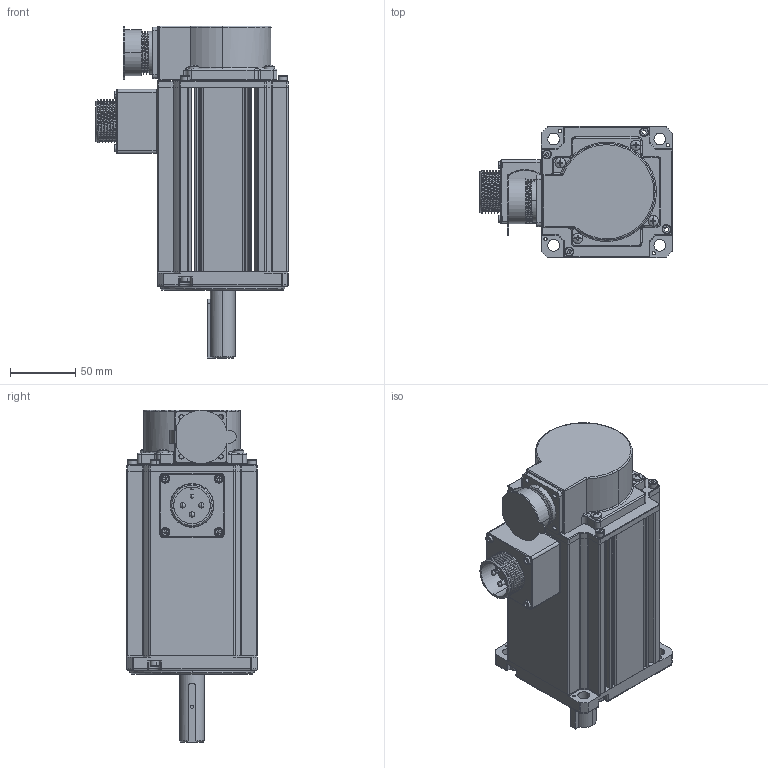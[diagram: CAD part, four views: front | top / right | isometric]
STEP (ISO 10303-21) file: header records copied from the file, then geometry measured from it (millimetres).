
FILE_DESCRIPTION (( 'STEP AP203' ), '1' );
FILE_NAME ('WF100ST-M08030GYA5-B1軞蚾-YD28粣19.STEP', '2024-01-30T08:51:43', ( 'lvbing' ), ( 'WG' ), 'SwSTEP 2.0', 'SolidWorks 2018', '' );
FILE_SCHEMA (( 'CONFIG_CONTROL_DESIGN' ));
Length unit declared in the file: millimetre
Products named in the file (2): WF100ST-M08030GYA5-B1軞蚾-YD28粣19
Bounding box: 147 x 100 x 254 mm (x, y, z)
Surface area: 138981.7 mm2 (no closed solid volume)
Topology: 0 solids, 54 shells, 971 faces, 2752 edges, 1803 vertices
Faces by surface type: cylinder 419, plane 320, torus 138, cone 45, bspline 31, sphere 18
Entity records: 34435 total; most frequent: CARTESIAN_POINT 9236, DIRECTION 5648, ORIENTED_EDGE 4662, EDGE_CURVE 2711, AXIS2_PLACEMENT_3D 2181, VERTEX_POINT 1795, VECTOR 1286, LINE 1286
